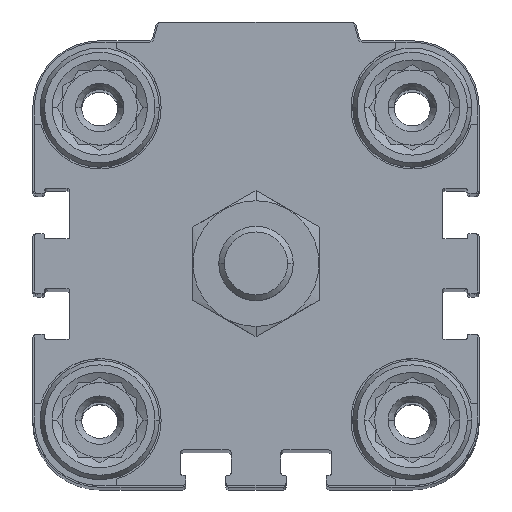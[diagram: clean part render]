
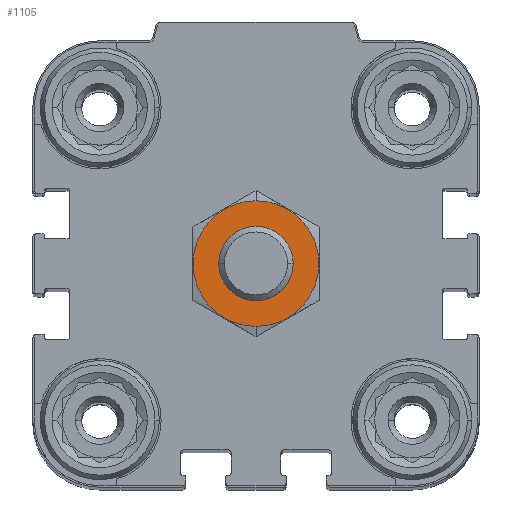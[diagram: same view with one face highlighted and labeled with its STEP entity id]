
A CAD part, top view. The second image highlights one B-rep face of the part: STEP entity #1105.
In plain terms, the highlighted planar face has unit normal (0, 0, 1).
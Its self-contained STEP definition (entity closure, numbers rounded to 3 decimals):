
#20 = CARTESIAN_POINT ( 'NONE',  ( 0., 0., 15.5 ) ) ;
#266 = VERTEX_POINT ( 'NONE', #17377 ) ;
#553 = EDGE_LOOP ( 'NONE', ( #15356, #18903 ) ) ;
#1105 = ADVANCED_FACE ( 'NONE', ( #4969, #23844 ), #1186, .F. ) ;
#1149 = VERTEX_POINT ( 'NONE', #15928 ) ;
#1186 = PLANE ( 'NONE',  #18445 ) ;
#1636 = CARTESIAN_POINT ( 'NONE',  ( 0., 0., 15.5 ) ) ;
#2096 = DIRECTION ( 'NONE',  ( 0., 0., -1. ) ) ;
#2235 = AXIS2_PLACEMENT_3D ( 'NONE', #5636, #2096, #11111 ) ;
#3501 = DIRECTION ( 'NONE',  ( 0., 0., -1. ) ) ;
#3865 = VERTEX_POINT ( 'NONE', #23341 ) ;
#4532 = EDGE_CURVE ( 'NONE', #12311, #3865, #19928, .T. ) ;
#4969 = FACE_OUTER_BOUND ( 'NONE', #553, .T. ) ;
#5285 = CARTESIAN_POINT ( 'NONE',  ( 0., 8.45, 15.5 ) ) ;
#5636 = CARTESIAN_POINT ( 'NONE',  ( 0., 0., 15.5 ) ) ;
#6166 = EDGE_LOOP ( 'NONE', ( #11241, #19660 ) ) ;
#7100 = AXIS2_PLACEMENT_3D ( 'NONE', #20, #7575, #20730 ) ;
#7127 = DIRECTION ( 'NONE',  ( 0., -1., 0. ) ) ;
#7158 = CARTESIAN_POINT ( 'NONE',  ( 0., 0., 15.5 ) ) ;
#7575 = DIRECTION ( 'NONE',  ( 0., 0., -1. ) ) ;
#8614 = AXIS2_PLACEMENT_3D ( 'NONE', #1636, #14302, #7127 ) ;
#9523 = EDGE_CURVE ( 'NONE', #1149, #266, #9796, .T. ) ;
#9796 = CIRCLE ( 'NONE', #16397, 5. ) ;
#11111 = DIRECTION ( 'NONE',  ( 0., -1., 0. ) ) ;
#11241 = ORIENTED_EDGE ( 'NONE', *, *, #9523, .T. ) ;
#12311 = VERTEX_POINT ( 'NONE', #5285 ) ;
#12730 = CIRCLE ( 'NONE', #2235, 5. ) ;
#13321 = DIRECTION ( 'NONE',  ( 0., 0., -1. ) ) ;
#14302 = DIRECTION ( 'NONE',  ( 0., 0., -1. ) ) ;
#15149 = DIRECTION ( 'NONE',  ( 0., -1., 0. ) ) ;
#15356 = ORIENTED_EDGE ( 'NONE', *, *, #18090, .F. ) ;
#15928 = CARTESIAN_POINT ( 'NONE',  ( 0., 5., 15.5 ) ) ;
#16397 = AXIS2_PLACEMENT_3D ( 'NONE', #17361, #13321, #15149 ) ;
#16789 = CIRCLE ( 'NONE', #8614, 8.45 ) ;
#17361 = CARTESIAN_POINT ( 'NONE',  ( 0., 0., 15.5 ) ) ;
#17377 = CARTESIAN_POINT ( 'NONE',  ( 0., -5., 15.5 ) ) ;
#18090 = EDGE_CURVE ( 'NONE', #3865, #12311, #16789, .T. ) ;
#18445 = AXIS2_PLACEMENT_3D ( 'NONE', #7158, #3501, #21659 ) ;
#18903 = ORIENTED_EDGE ( 'NONE', *, *, #4532, .F. ) ;
#19660 = ORIENTED_EDGE ( 'NONE', *, *, #19732, .T. ) ;
#19732 = EDGE_CURVE ( 'NONE', #266, #1149, #12730, .T. ) ;
#19928 = CIRCLE ( 'NONE', #7100, 8.45 ) ;
#20730 = DIRECTION ( 'NONE',  ( 0., -1., 0. ) ) ;
#21659 = DIRECTION ( 'NONE',  ( 0., -1., 0. ) ) ;
#23341 = CARTESIAN_POINT ( 'NONE',  ( 0., -8.45, 15.5 ) ) ;
#23844 = FACE_BOUND ( 'NONE', #6166, .T. ) ;
